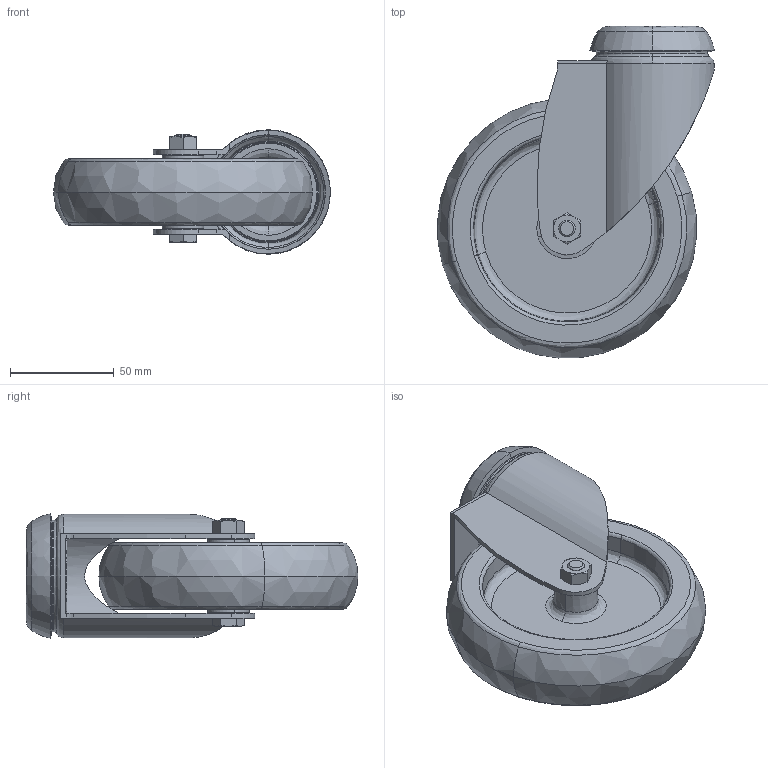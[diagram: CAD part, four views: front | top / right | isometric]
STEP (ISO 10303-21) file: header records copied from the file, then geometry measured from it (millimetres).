
FILE_DESCRIPTION (( 'STEP AP203' ), '1' );
FILE_NAME ('502080_Lenkrolle Ø125 mit Rückenloch Ø13 leitfähig.step', '2022-07-29T06:27:56', ( '' ), ( '' ), 'SwSTEP 2.0', 'SolidWorks 2021', '' );
FILE_SCHEMA (( 'CONFIG_CONTROL_DESIGN' ));
Length unit declared in the file: millimetre
Products named in the file (1): 502080_Lenkrolle Ø125 mit Rückenloch Ø13 leitfähig
Bounding box: 133.37 x 159.87 x 59.99 mm (x, y, z)
Volume: 276115.8 mm3; surface area: 83936.8 mm2
Topology: 2 solids, 2 shells, 172 faces, 408 edges, 254 vertices
Faces by surface type: bspline 58, plane 41, cylinder 37, cone 36
Entity records: 8227 total; most frequent: CARTESIAN_POINT 4420, ORIENTED_EDGE 816, DIRECTION 752, EDGE_CURVE 408, AXIS2_PLACEMENT_3D 327, VERTEX_POINT 254, CIRCLE 212, EDGE_LOOP 192
